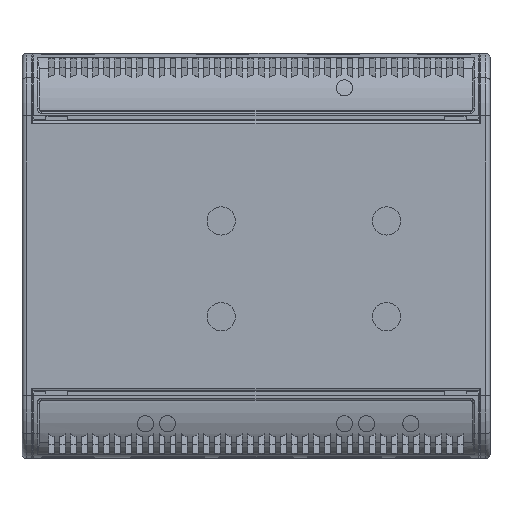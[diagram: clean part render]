
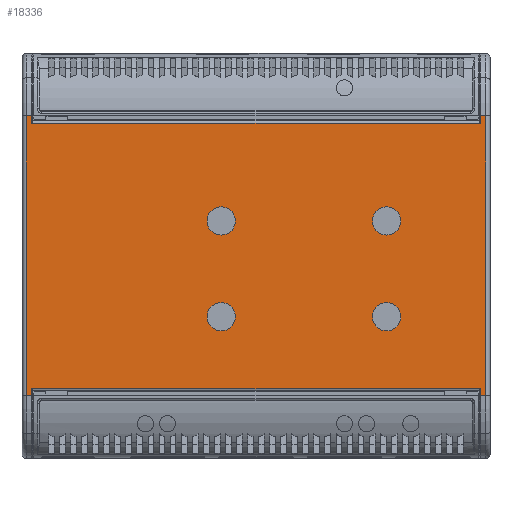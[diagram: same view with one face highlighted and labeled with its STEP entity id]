
A CAD part, top view. The second image highlights one B-rep face of the part: STEP entity #18336.
In plain terms, the highlighted planar face has unit normal (0, 0, 1).
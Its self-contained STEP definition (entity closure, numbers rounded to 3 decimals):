
#510=LINE($,#26364,#2615);
#515=LINE($,#26382,#2620);
#517=LINE($,#26407,#2622);
#520=LINE($,#26439,#2625);
#549=LINE($,#26501,#2654);
#550=LINE($,#26514,#2655);
#552=LINE($,#26521,#2657);
#553=LINE($,#26523,#2658);
#554=LINE($,#26524,#2659);
#555=LINE($,#26526,#2660);
#556=LINE($,#26528,#2661);
#557=LINE($,#26529,#2662);
#2615=VECTOR($,#20970,1.2);
#2620=VECTOR($,#20991,64.282);
#2622=VECTOR($,#21007,1.641);
#2625=VECTOR($,#21044,1.2);
#2654=VECTOR($,#21087,64.282);
#2655=VECTOR($,#21090,1.641);
#2657=VECTOR($,#21100,103.1);
#2658=VECTOR($,#21103,1.2);
#2659=VECTOR($,#21104,1.2);
#2660=VECTOR($,#21105,1.641);
#2661=VECTOR($,#21106,103.1);
#2662=VECTOR($,#21107,1.641);
#4901=FACE_OUTER_BOUND($,#5642,.T.);
#5642=EDGE_LOOP($,(#12928,#12929,#12930,#12931,#12932,#12933,#12934,#12935,
#12936,#12937,#12938,#12939));
#7254=VERTEX_POINT($,#26343);
#7262=VERTEX_POINT($,#26362);
#7267=VERTEX_POINT($,#26381);
#7271=VERTEX_POINT($,#26392);
#7273=VERTEX_POINT($,#26405);
#7277=VERTEX_POINT($,#26416);
#7284=VERTEX_POINT($,#26433);
#7311=VERTEX_POINT($,#26499);
#7312=VERTEX_POINT($,#26503);
#7314=VERTEX_POINT($,#26513);
#7316=VERTEX_POINT($,#26525);
#7317=VERTEX_POINT($,#26527);
#9587=EDGE_CURVE($,#7262,#7254,#510,.T.);
#9596=EDGE_CURVE($,#7267,#7254,#515,.T.);
#9604=EDGE_CURVE($,#7271,#7273,#517,.T.);
#9619=EDGE_CURVE($,#7284,#7277,#520,.T.);
#9651=EDGE_CURVE($,#7277,#7311,#549,.T.);
#9653=EDGE_CURVE($,#7314,#7312,#550,.T.);
#9658=EDGE_CURVE($,#7312,#7271,#552,.T.);
#9659=EDGE_CURVE($,#7314,#7311,#553,.T.);
#9660=EDGE_CURVE($,#7273,#7267,#554,.T.);
#9661=EDGE_CURVE($,#7262,#7316,#555,.T.);
#9662=EDGE_CURVE($,#7316,#7317,#556,.T.);
#9663=EDGE_CURVE($,#7317,#7284,#557,.T.);
#12928=ORIENTED_EDGE($,*,*,#9659,.F.);
#12929=ORIENTED_EDGE($,*,*,#9653,.T.);
#12930=ORIENTED_EDGE($,*,*,#9658,.T.);
#12931=ORIENTED_EDGE($,*,*,#9604,.T.);
#12932=ORIENTED_EDGE($,*,*,#9660,.T.);
#12933=ORIENTED_EDGE($,*,*,#9596,.T.);
#12934=ORIENTED_EDGE($,*,*,#9587,.F.);
#12935=ORIENTED_EDGE($,*,*,#9661,.T.);
#12936=ORIENTED_EDGE($,*,*,#9662,.T.);
#12937=ORIENTED_EDGE($,*,*,#9663,.T.);
#12938=ORIENTED_EDGE($,*,*,#9619,.T.);
#12939=ORIENTED_EDGE($,*,*,#9651,.T.);
#17677=PLANE($,#19204);
#18336=ADVANCED_FACE($,(#4901),#17677,.F.);
#19204=AXIS2_PLACEMENT_3D($,#26522,#21101,#21102);
#20970=DIRECTION($,(1.,0.,0.));
#20991=DIRECTION($,(0.,1.,0.));
#21007=DIRECTION($,(0.,-1.,0.));
#21044=DIRECTION($,(-1.,0.,0.));
#21087=DIRECTION($,(0.,-1.,0.));
#21090=DIRECTION($,(0.,1.,0.));
#21100=DIRECTION($,(1.,0.,0.));
#21101=DIRECTION('center_axis',(0.,0.,-1.));
#21102=DIRECTION('ref_axis',(-1.,0.,0.));
#21103=DIRECTION($,(-1.,0.,0.));
#21104=DIRECTION($,(1.,0.,0.));
#21105=DIRECTION($,(0.,-1.,0.));
#21106=DIRECTION($,(-1.,0.,0.));
#21107=DIRECTION($,(0.,1.,0.));
#26343=CARTESIAN_POINT('',(40.892,62.237,23.8));
#26362=CARTESIAN_POINT('',(39.692,62.237,23.8));
#26364=CARTESIAN_POINT($,(39.392,62.237,23.8));
#26381=CARTESIAN_POINT('',(40.892,-2.045,23.8));
#26382=CARTESIAN_POINT($,(40.892,0.096,23.8));
#26392=CARTESIAN_POINT('',(39.692,-0.404,23.8));
#26405=CARTESIAN_POINT('',(39.692,-2.045,23.8));
#26407=CARTESIAN_POINT($,(39.692,61.096,23.8));
#26416=CARTESIAN_POINT('',(-64.608,62.237,23.8));
#26433=CARTESIAN_POINT('',(-63.408,62.237,23.8));
#26439=CARTESIAN_POINT($,(-63.108,62.237,23.8));
#26499=CARTESIAN_POINT('',(-64.608,-2.045,23.8));
#26501=CARTESIAN_POINT($,(-64.608,61.096,23.8));
#26503=CARTESIAN_POINT('',(-63.408,-0.404,23.8));
#26513=CARTESIAN_POINT('',(-63.408,-2.045,23.8));
#26514=CARTESIAN_POINT($,(-63.408,-0.404,23.8));
#26521=CARTESIAN_POINT($,(41.892,-0.404,23.8));
#26522=CARTESIAN_POINT('Origin',(41.892,61.096,23.8));
#26523=CARTESIAN_POINT($,(-63.108,-2.045,23.8));
#26524=CARTESIAN_POINT($,(39.392,-2.045,23.8));
#26525=CARTESIAN_POINT('',(39.692,60.596,23.8));
#26526=CARTESIAN_POINT($,(39.692,61.096,23.8));
#26527=CARTESIAN_POINT('',(-63.408,60.596,23.8));
#26528=CARTESIAN_POINT($,(41.892,60.596,23.8));
#26529=CARTESIAN_POINT($,(-63.408,62.237,23.8));
